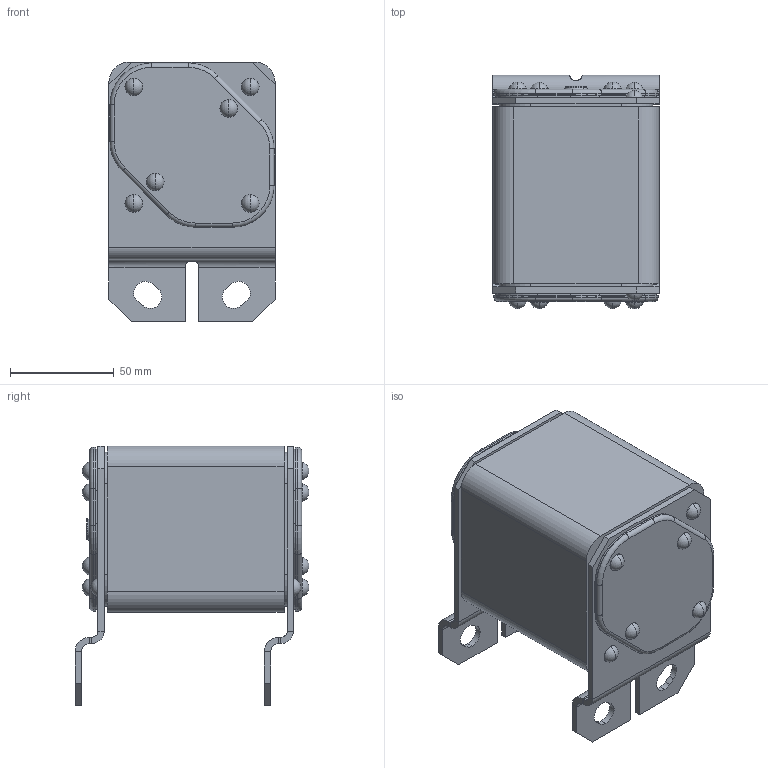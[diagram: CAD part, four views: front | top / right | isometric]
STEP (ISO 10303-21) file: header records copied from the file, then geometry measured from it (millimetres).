
FILE_DESCRIPTION (( 'STEP AP214' ), '1' );
FILE_NAME ('砎槼隰譇膻蠈錪 珫57-40680-XXXA-XXXX-忡曖.STEP', '2023-05-16T12:16:56', ( '' ), ( '' ), 'SwSTEP 2.0', 'SolidWorks 2018', '' );
FILE_SCHEMA (( 'AUTOMOTIVE_DESIGN' ));
Length unit declared in the file: millimetre
Products named in the file (1): 砎槼隰譇膻蠈錪 珫57-40680-XXXA-XXXX-忡曖
Bounding box: 80 x 112.5 x 125 mm (x, y, z)
Volume: 638281.6 mm3; surface area: 75260.6 mm2
Topology: 1 solids, 19 shells, 473 faces, 1100 edges, 694 vertices
Faces by surface type: plane 187, cylinder 180, torus 48, cone 32, sphere 24, bspline 2
Entity records: 19183 total; most frequent: CARTESIAN_POINT 2668, DIRECTION 2574, ORIENTED_EDGE 2200, EDGE_CURVE 1100, AXIS2_PLACEMENT_3D 1018, VERTEX_POINT 694, CIRCLE 546, VECTOR 538
